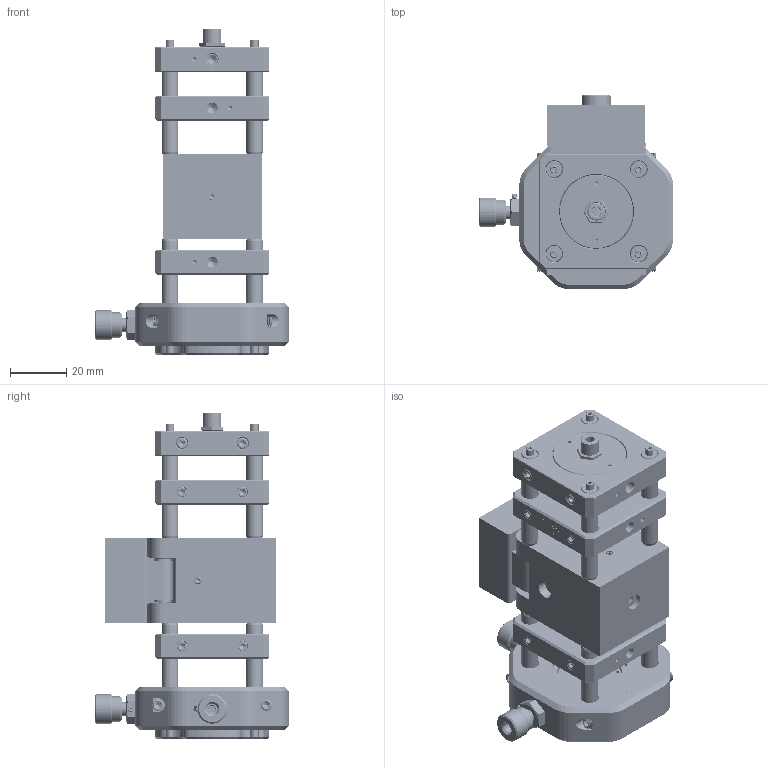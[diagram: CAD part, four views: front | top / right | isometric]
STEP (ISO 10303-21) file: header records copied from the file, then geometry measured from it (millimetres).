
FILE_DESCRIPTION (( 'STEP AP214' ), '1' );
FILE_NAME ('2023-16 - ABSORBANCE ASSY.STEP', '2024-04-05T07:58:20', ( '' ), ( '' ), 'SwSTEP 2.0', 'SolidWorks 2024', '' );
FILE_SCHEMA (( 'AUTOMOTIVE_DESIGN' ));
Length unit declared in the file: millimetre
Products named in the file (18): CP33_M; 2023-13 - SQUARE CUVETTE HOLDER; SM1RR; ISO 2338 - 3 m6 x 30 - St_ISO 2338 - 3 m6 x 30 - St; pwf3.stp; ER1.5; 2023-14 - CUVETTE APERTURE; SM1SMA; CP14_Web Assembly; 2023-15 - CUVETTE HOLDER LID; rsm3-5.2.stp; CXY1A; 220300003.stp; 2023-16 - ABSORBANCE ASSY; AC127-019-A; 2023-12 - SQUARE CUVETTE ASSY_exploded; 9406431; wr4-5.step
Assembly tree (36 placements, depth 3):
  2023-16 - ABSORBANCE ASSY
    2023-12 - SQUARE CUVETTE ASSY_exploded
      9406431
      2023-13 - SQUARE CUVETTE HOLDER
      220300003.stp  x4
      rsm3-5.2.stp  x6
      2023-14 - CUVETTE APERTURE
      2023-15 - CUVETTE HOLDER LID
      ISO 2338 - 3 m6 x 30 - St_ISO 2338 - 3 m6 x 30 - St
      wr4-5.step
      pwf3.stp  x2
    AC127-019-A  x2
    CP14_Web Assembly  x2
    SM1SMA  x2
    CP33_M
    ER1.5  x8
    CXY1A
    SM1RR
Bounding box: 68.96 x 68.96 x 115.98 mm (x, y, z)
Volume: 129952.6 mm3; surface area: 79411.8 mm2
Topology: 115 solids, 115 shells, 4180 faces, 10102 edges, 6230 vertices
Faces by surface type: plane 1856, cone 957, cylinder 871, bspline 410, sphere 68, torus 18
Entity records: 115387 total; most frequent: CARTESIAN_POINT 47465, ORIENTED_EDGE 14400, DIRECTION 12741, EDGE_CURVE 7200, VERTEX_POINT 4552, AXIS2_PLACEMENT_3D 4425, LINE 3891, VECTOR 3891
